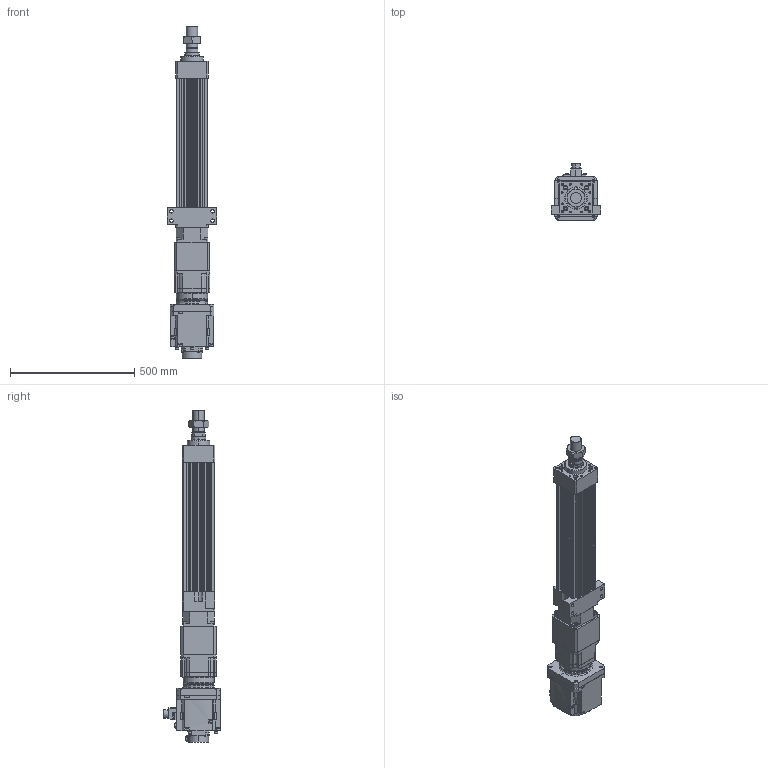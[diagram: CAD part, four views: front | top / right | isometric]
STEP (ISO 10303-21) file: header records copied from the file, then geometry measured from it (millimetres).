
FILE_DESCRIPTION (( 'STEP AP203' ), '1' );
FILE_NAME ('HES130NS(FS)(HS)-S300-W020G00-M-FFC.STEP', '2026-06-10T06:34:26', ( 'tms' ), ( '' ), 'SwSTEP 2.0', 'SolidWorks 2013', '' );
FILE_SCHEMA (( 'CONFIG_CONTROL_DESIGN' ));
Length unit declared in the file: millimetre
Products named in the file (9): AB1423; M45X1.5P; AB1422; HES130-M-ROD-300; HG-SR202B; HES130NS(FS)(HS)-S300-W020G00-M-FFC; HES130-S-G142; HES130-FFC-300; AB1421
Assembly tree (8 placements, depth 2):
  HES130NS(FS)(HS)-S300-W020G00-M-FFC
    HES130-FFC-300
    HES130-M-ROD-300
    M45X1.5P
    HES130-S-G142
    AB1421
    AB1422
    AB1423
    HG-SR202B
Bounding box: 200 x 228.85 x 1335 mm (x, y, z)
Volume: 12712550.3 mm3; surface area: 1502192.7 mm2
Topology: 5 solids, 19 shells, 1585 faces, 4100 edges, 2650 vertices
Faces by surface type: cylinder 710, plane 617, cone 176, bspline 76, torus 6
Entity records: 57272 total; most frequent: CARTESIAN_POINT 17113, DIRECTION 8420, ORIENTED_EDGE 8078, EDGE_CURVE 4061, AXIS2_PLACEMENT_3D 3174, VERTEX_POINT 2650, VECTOR 2072, LINE 2072
